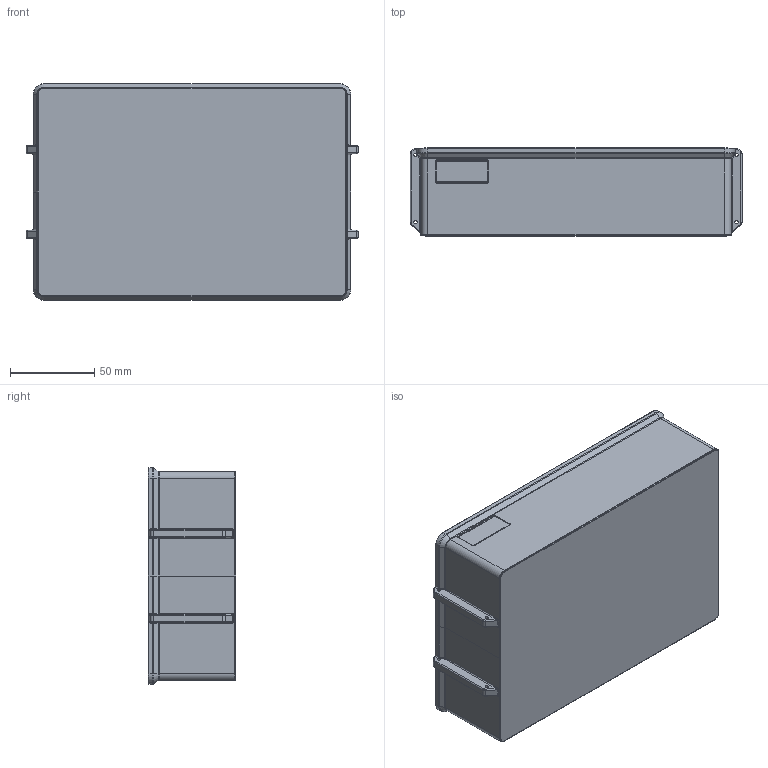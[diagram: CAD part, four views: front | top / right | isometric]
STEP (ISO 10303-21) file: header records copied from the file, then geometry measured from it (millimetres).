
FILE_DESCRIPTION (( 'STEP AP214' ), '1' );
FILE_NAME ('Tiered Storage Box 180x120x50 8 Cell Var 1.STEP', '2024-06-06T19:15:18', ( '' ), ( '' ), 'SwSTEP 2.0', 'SolidWorks 2022', '' );
FILE_SCHEMA (( 'AUTOMOTIVE_DESIGN' ));
Length unit declared in the file: millimetre
Products named in the file (1): Tiered Storage Box 180x120x50 8 Cell Var 1
Bounding box: 197 x 52 x 128.4 mm (x, y, z)
Volume: 155750.4 mm3; surface area: 159990.8 mm2
Topology: 1 solids, 1 shells, 554 faces, 1279 edges, 680 vertices
Faces by surface type: cylinder 243, plane 119, torus 92, bspline 60, sphere 28, cone 12
Entity records: 16608 total; most frequent: CARTESIAN_POINT 4470, DIRECTION 2708, ORIENTED_EDGE 2478, EDGE_CURVE 1239, AXIS2_PLACEMENT_3D 1086, VERTEX_POINT 680, CIRCLE 591, EDGE_LOOP 563
